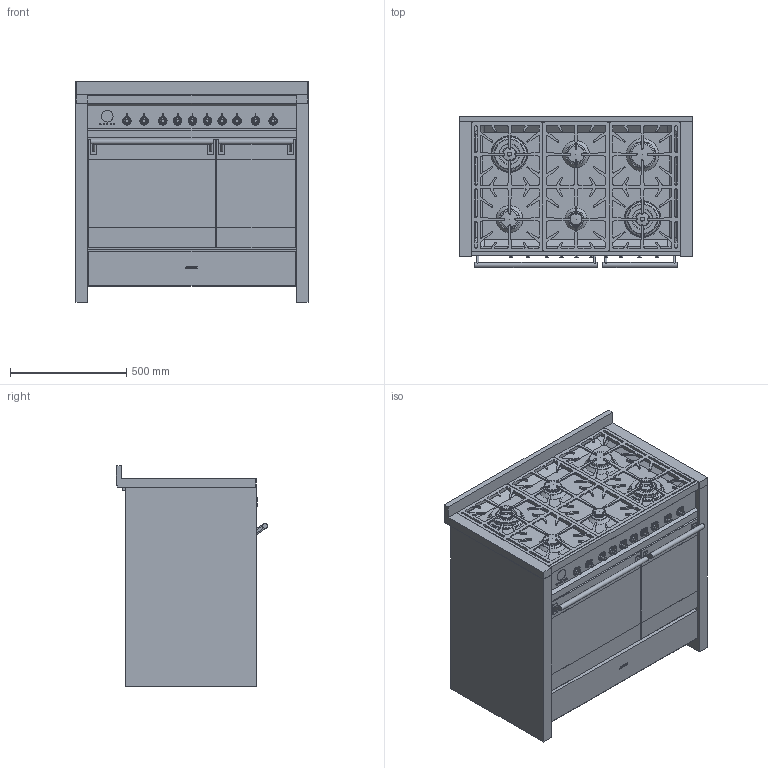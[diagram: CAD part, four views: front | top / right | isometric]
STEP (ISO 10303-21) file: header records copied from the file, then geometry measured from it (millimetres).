
FILE_DESCRIPTION(/* description */ (''),/* implementation_level */ '2;1');
FILE_NAME(/* name */ 'a2-8spar.stp',/* time_stamp */ '2012-07-02T15:40:55+02:00',/* author */ (''),/* organization */ (''),/* preprocessor_version */ 'ST-DEVELOPER v11',/* originating_system */ 'SIEMENS PLM Software NX 7.5',/* authorisation */ '');
FILE_SCHEMA (('AUTOMOTIVE_DESIGN { 1 0 10303 214 1 1 1 1 }'));
Length unit declared in the file: millimetre
Products named in the file (1): FIORD78Eit7y
Bounding box: 1000 x 651 x 951.1 mm (x, y, z)
Volume: 79297837.4 mm3; surface area: 7750010.5 mm2
Topology: 58 solids, 58 shells, 1236 faces, 3142 edges, 2060 vertices
Faces by surface type: plane 671, cylinder 226, extrusion 191, torus 84, cone 60, sphere 3, bspline 1
Full cylindrical faces by diameter (mm): 4.608 x6, 6 x10, 14.996 x10, 17 x10, 22 x7, 50 x2, 55 x1, 60.611 x2, 65.5 x1, 75 x2, 85.5 x2, 85.7 x2, 100 x1, 110.5 x1, 131 x2, 147 x2
Entity records: 37533 total; most frequent: CARTESIAN_POINT 6888, DIRECTION 6475, ORIENTED_EDGE 5816, EDGE_CURVE 2908, AXIS2_PLACEMENT_3D 2210, VECTOR 2055, VERTEX_POINT 2029, LINE 1864
